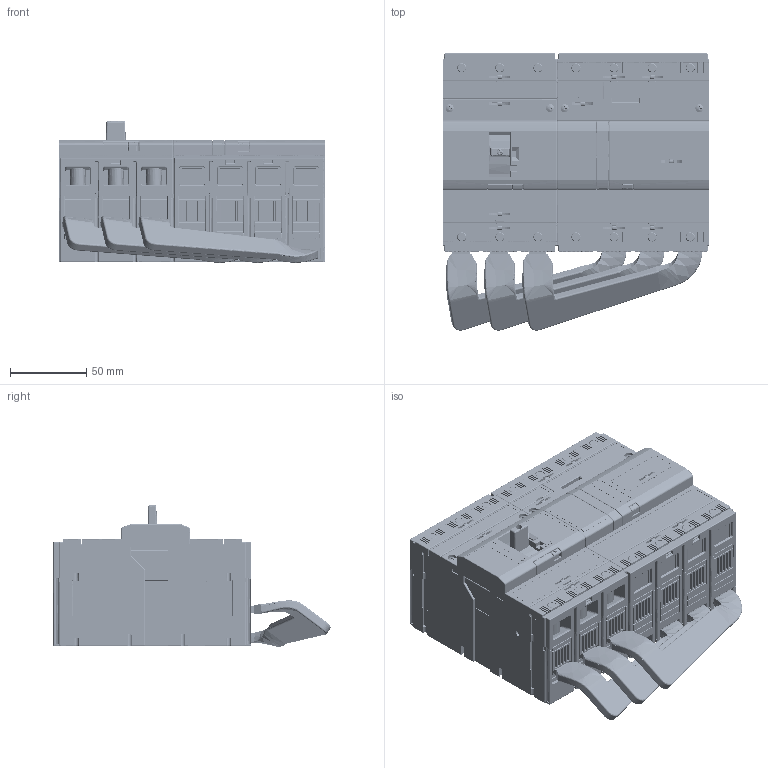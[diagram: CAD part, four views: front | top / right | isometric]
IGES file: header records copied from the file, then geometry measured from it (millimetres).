
Start section: SolidWorks IGES file using analytic representation for surfaces
Global section: file name: U:\14_RD\05_Technical_office\04_Office\Hrdinova\3D modely - IGES\Modeion\BC160NT305__RCD-BC0_Z.IGS; native system: SolidWorks 2011; preprocessor: SolidWorks 2011; author: adhrja3; date: 170615.123218; units: millimetre
Bounding box: 175 x 181.91 x 92.97 mm (x, y, z)
Surface area: 305944.8 mm2 (no closed solid volume)
Topology: 0 solids, 0 shells, 10185 faces, 81914 edges, 81804 vertices
Faces by surface type: bspline 6522, revolution 3663
